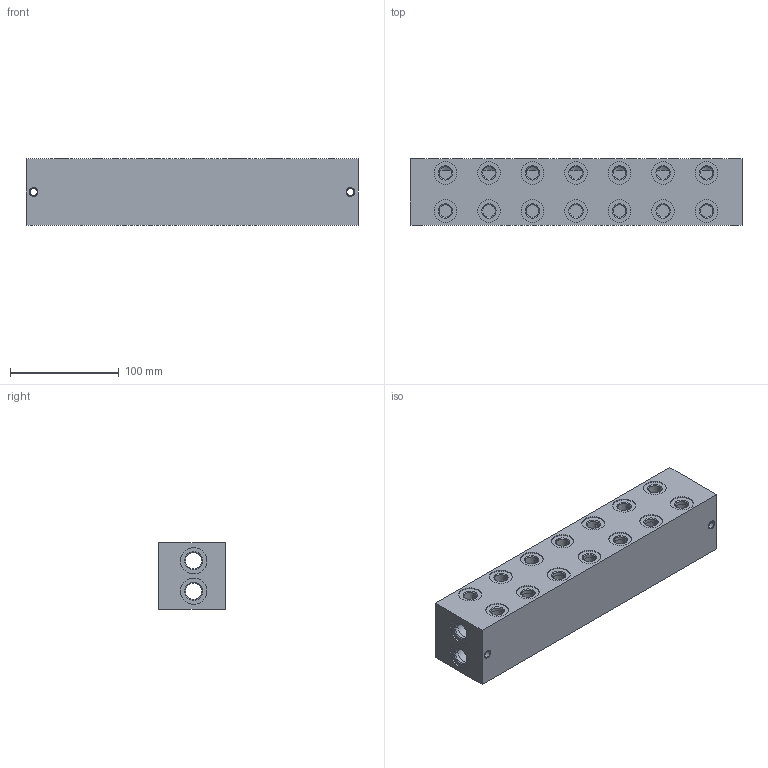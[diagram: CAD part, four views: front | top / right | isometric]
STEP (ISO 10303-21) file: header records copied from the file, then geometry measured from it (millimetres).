
FILE_DESCRIPTION((''),'2;1');
FILE_NAME('760_6870','2015-11-27T',('Ahcz.brigadnik05'),(''),'PRO/ENGINEER BY PARAMETRIC TECHNOLOGY CORPORATION, 2015110','PRO/ENGINEER BY PARAMETRIC TECHNOLOGY CORPORATION, 2015110','');
FILE_SCHEMA(('AUTOMOTIVE_DESIGN { 1 0 10303 214 1 1 1 1 }'));
Length unit declared in the file: millimetre
Products named in the file (1): 760_6870
Bounding box: 305 x 61 x 61 mm (x, y, z)
Volume: 425715.7 mm3; surface area: 167774.8 mm2
Topology: 1 solids, 49 shells, 429 faces, 2153 edges, 2080 vertices
Faces by surface type: cylinder 301, plane 82, cone 46
Entity records: 23777 total; most frequent: CARTESIAN_POINT 5018, DIRECTION 3577, ORIENTED_EDGE 2186, VECTOR 1369, LINE 1369, EDGE_CURVE 1189, AXIS2_PLACEMENT_3D 1104, TRIMMED_CURVE 963
